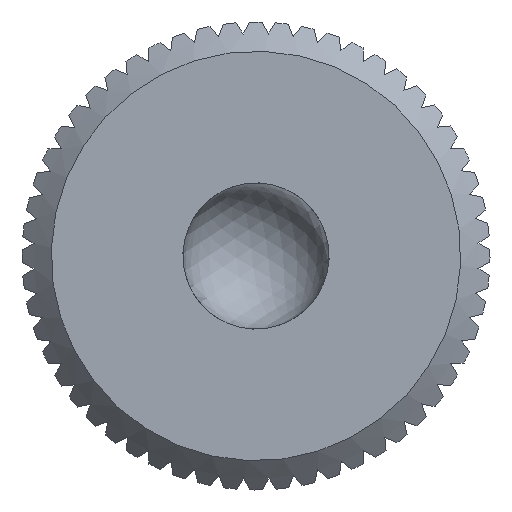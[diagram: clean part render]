
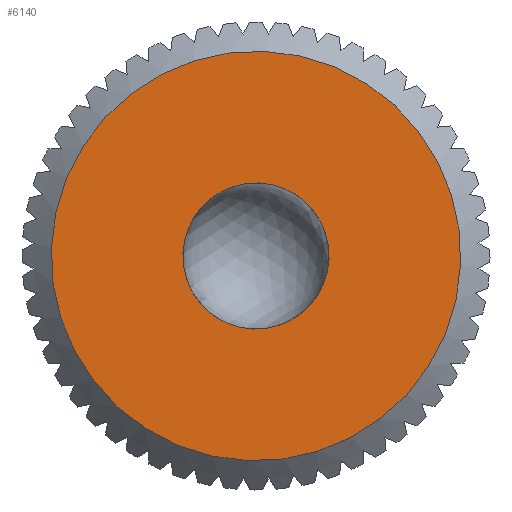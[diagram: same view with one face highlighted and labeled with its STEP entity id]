
A CAD part, left-side view. The second image highlights one B-rep face of the part: STEP entity #6140.
In plain terms, the highlighted planar face has unit normal (-1, 0, 0).
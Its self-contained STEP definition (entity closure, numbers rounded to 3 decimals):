
#310 = CARTESIAN_POINT ( 'NONE',  ( -15.583, -0.562, 0. ) ) ;
#311 = DIRECTION ( 'NONE',  ( 1., 0., 0. ) ) ;
#312 = DIRECTION ( 'NONE',  ( 0., -0.924, -0.382 ) ) ;
#317 = CARTESIAN_POINT ( 'NONE',  ( -15.583, -0.562, 0. ) ) ;
#318 = DIRECTION ( 'NONE',  ( -1., 0., 0. ) ) ;
#319 = DIRECTION ( 'NONE',  ( 0., -0.924, -0.382 ) ) ;
#805 = AXIS2_PLACEMENT_3D ( 'NONE', #1346, #1350, #1351 ) ;
#1346 = CARTESIAN_POINT ( 'NONE',  ( -15.583, -0.084, -1.155 ) ) ;
#1348 = PLANE ( 'NONE',  #805 ) ;
#1350 = DIRECTION ( 'NONE',  ( 1., 0., 0. ) ) ;
#1351 = DIRECTION ( 'NONE',  ( 0., -0.924, -0.382 ) ) ;
#2433 = CARTESIAN_POINT ( 'NONE',  ( -15.583, -1.717, -0.477 ) ) ;
#2435 = CARTESIAN_POINT ( 'NONE',  ( -15.583, -3.796, -1.336 ) ) ;
#2597 = CIRCLE ( 'NONE', #6345, 3.5 ) ;
#2599 = CIRCLE ( 'NONE', #6343, 1.25 ) ;
#2888 = VERTEX_POINT ( 'NONE', #2435 ) ;
#2892 = VERTEX_POINT ( 'NONE', #2433 ) ;
#3261 = FACE_BOUND ( 'NONE', #5796, .T. ) ;
#3295 = FACE_OUTER_BOUND ( 'NONE', #5772, .T. ) ;
#4929 = EDGE_CURVE ( 'NONE', #2892, #2892, #2599, .T. ) ;
#4931 = EDGE_CURVE ( 'NONE', #2888, #2888, #2597, .T. ) ;
#5160 = ORIENTED_EDGE ( 'NONE', *, *, #4931, .T. ) ;
#5598 = ORIENTED_EDGE ( 'NONE', *, *, #4929, .T. ) ;
#5772 = EDGE_LOOP ( 'NONE', ( #5160 ) ) ;
#5796 = EDGE_LOOP ( 'NONE', ( #5598 ) ) ;
#6140 = ADVANCED_FACE ( 'NONE', ( #3295, #3261 ), #1348, .F. ) ;
#6343 = AXIS2_PLACEMENT_3D ( 'NONE', #310, #311, #312 ) ;
#6345 = AXIS2_PLACEMENT_3D ( 'NONE', #317, #318, #319 ) ;
